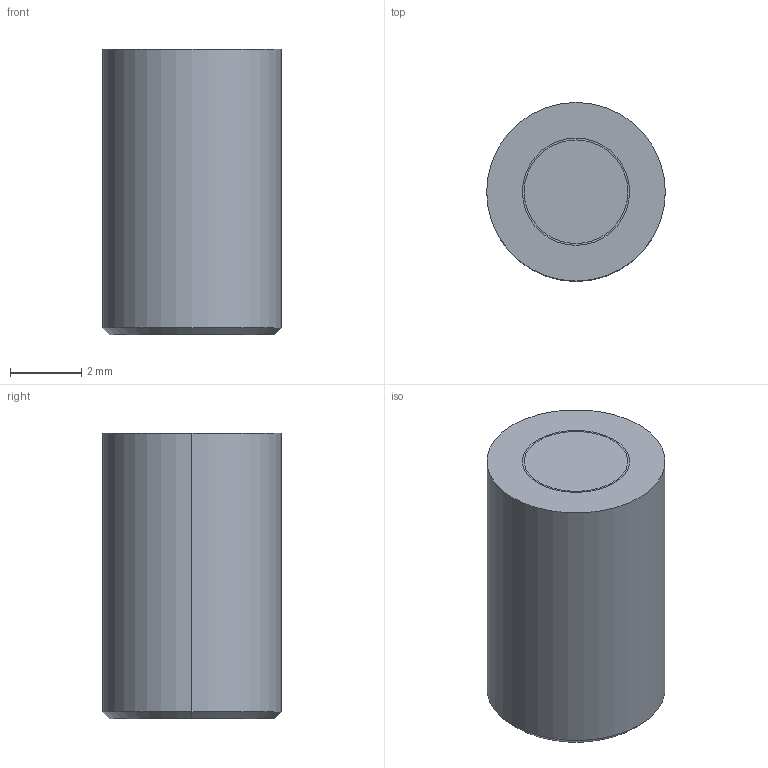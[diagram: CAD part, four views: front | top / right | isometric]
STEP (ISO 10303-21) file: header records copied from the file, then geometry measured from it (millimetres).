
FILE_DESCRIPTION (( 'STEP AP214' ), '1' );
FILE_NAME ('BruyRubio_Blank-5S.STEP', '2019-12-19T17:20:45', ( '' ), ( '' ), 'SwSTEP 2.0', 'SolidWorks 2017', '' );
FILE_SCHEMA (( 'AUTOMOTIVE_DESIGN' ));
Length unit declared in the file: millimetre
Products named in the file (1): BruyRubio_Blank-5S
Bounding box: 5 x 5 x 8 mm (x, y, z)
Volume: 139.8 mm3; surface area: 287.3 mm2
Topology: 2 solids, 2 shells, 18 faces, 34 edges, 22 vertices
Faces by surface type: cylinder 10, plane 6, cone 2
Entity records: 709 total; most frequent: DIRECTION 94, CARTESIAN_POINT 75, ORIENTED_EDGE 68, AXIS2_PLACEMENT_3D 41, EDGE_CURVE 34, UNCERTAINTY_MEASURE_WITH_UNIT 22, VERTEX_POINT 22, EDGE_LOOP 22
